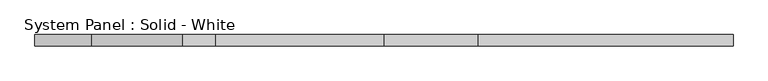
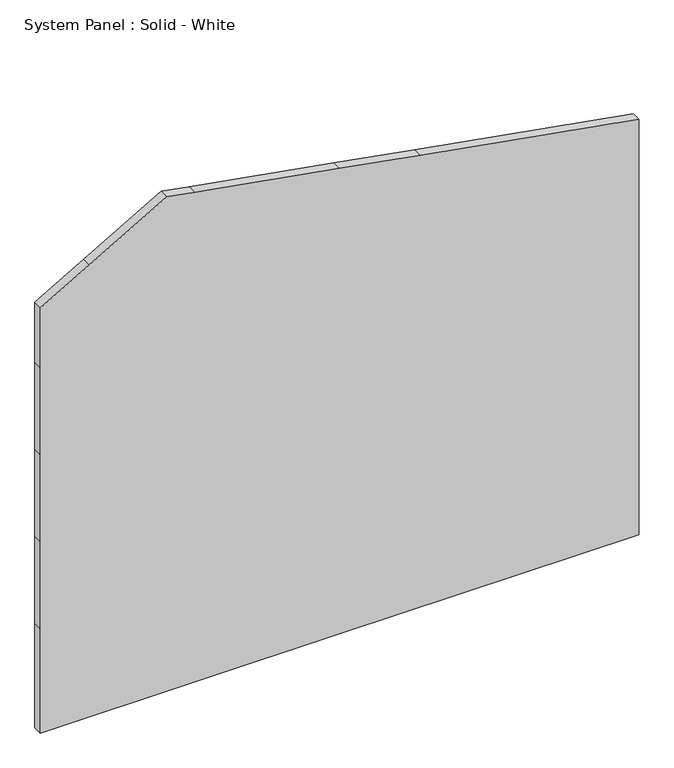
"""IFC4 building model written with IfcOpenShell, lengths in millimetres: plate geometry, System Panel : Solid - White."""

from ifc_helpers import new_model, si_unit, frame, origin, place, context, project, spatial, polyline, outline, extrude, source, transform, mapped, element, save


def system_panel_solid_white_18a98e17(model_context):
    return source(origin(), model_context, "Body", "SweptSolid", [
        extrude(outline(polyline([(0.0, -1987.55), (0.0, -958.85), (0.0, 0.0), (0.0, 1987.55), (733.9526365, 1987.55), (1343.5526365, 1987.55), (1953.1526365, 1987.55), (2562.7526365, 1987.55), (2916.570356, 1987.55), (3172.3526365, 536.9366028), (3267.0290465, 0.0), (3436.1001719, -958.85), (3469.7473635, -1149.672706), (3172.3526365, -1664.7754831), (2985.9986823, -1987.55), (2562.7526365, -1987.55), (1953.1526365, -1987.55), (1343.5526365, -1987.55), (733.9526365, -1987.55), (0.0, -1987.55)])), frame((0.0, -19.05, 0.0), z_axis=(0.0, 1.0, 0.0), x_axis=(0.0, 0.0, 1.0)), (0.0, 0.0, 1.0), 63.5),
    ])


if __name__ == "__main__":
    model = new_model("IFC4")
    model_context = context("Model", 3, world=origin())
    ifc_project = project(units=[si_unit("LENGTHUNIT", "METRE", prefix="MILLI")], contexts=[model_context])
    site = spatial("IfcSite", under=ifc_project)
    building = spatial("IfcBuilding", under=site)
    placement = place(None, origin())
    system_panel_solid_white_shape = system_panel_solid_white_18a98e17(model_context)
    element("IfcPlate", 1, ObjectType="System Panel : Solid - White", at=placement, inside=building, context=model_context, shape_type="MappedRepresentation", body=[
        mapped(system_panel_solid_white_shape, transform((0.0, 0.0, 0.0), x_axis=(1.0, 0.0, 0.0), y_axis=(0.0, 1.0, 0.0), z_axis=(0.0, 0.0, 1.0))),
    ])
    save(model, "model.ifc")
